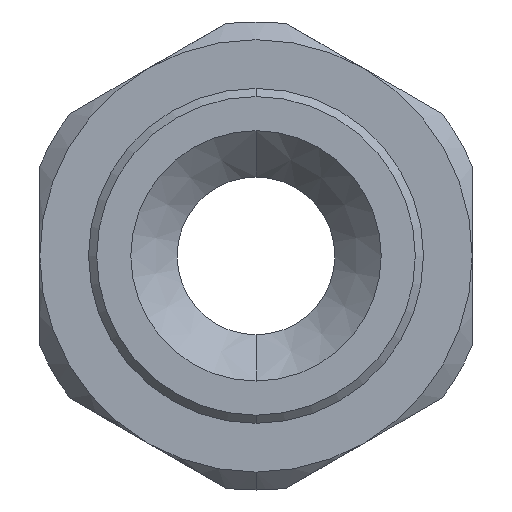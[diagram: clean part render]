
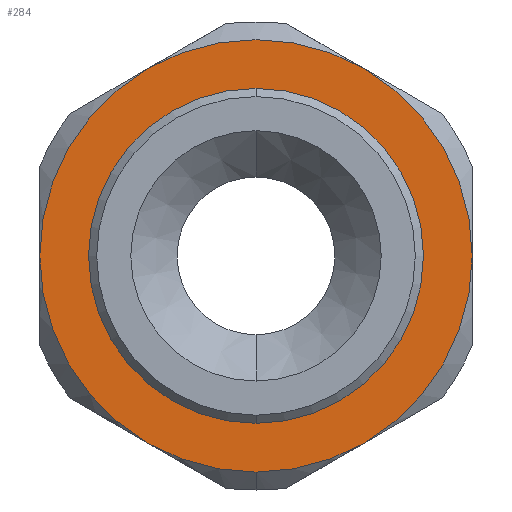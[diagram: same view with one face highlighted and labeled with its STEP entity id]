
A CAD part, front view. The second image highlights one B-rep face of the part: STEP entity #284.
In plain terms, the highlighted planar face has unit normal (0, -1, 0).
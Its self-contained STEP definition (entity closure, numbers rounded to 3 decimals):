
#33 = AXIS2_PLACEMENT_3D ( 'NONE', #1544, #1534, #1533 ) ;
#103 = CIRCLE ( 'NONE', #1100, 13.3 ) ;
#150 = CIRCLE ( 'NONE', #1116, 10.3 ) ;
#153 = CIRCLE ( 'NONE', #1102, 13.3 ) ;
#158 = EDGE_CURVE ( 'NONE', #1644, #1647, #371, .T. ) ;
#162 = EDGE_CURVE ( 'NONE', #1835, #1729, #394, .T. ) ;
#163 = EDGE_CURVE ( 'NONE', #1915, #1868, #150, .T. ) ;
#164 = EDGE_CURVE ( 'NONE', #1729, #1644, #103, .T. ) ;
#168 = EDGE_CURVE ( 'NONE', #1634, #1835, #153, .T. ) ;
#171 = EDGE_CURVE ( 'NONE', #1762, #1676, #250, .T. ) ;
#172 = EDGE_CURVE ( 'NONE', #1647, #1762, #248, .T. ) ;
#223 = CIRCLE ( 'NONE', #33, 10.3 ) ;
#248 = CIRCLE ( 'NONE', #1096, 13.3 ) ;
#250 = CIRCLE ( 'NONE', #1097, 13.3 ) ;
#284 = ADVANCED_FACE ( 'NONE', ( #1305, #1315 ), #2422, .F. ) ;
#371 = CIRCLE ( 'NONE', #1110, 13.3 ) ;
#383 = EDGE_CURVE ( 'NONE', #1676, #1634, #401, .T. ) ;
#394 = CIRCLE ( 'NONE', #1107, 13.3 ) ;
#401 = CIRCLE ( 'NONE', #1059, 13.3 ) ;
#463 = EDGE_CURVE ( 'NONE', #1868, #1915, #223, .T. ) ;
#750 = DIRECTION ( 'NONE',  ( 0., 0., -1. ) ) ;
#751 = DIRECTION ( 'NONE',  ( 0., -1., 0. ) ) ;
#752 = CARTESIAN_POINT ( 'NONE',  ( 0., 1., 0. ) ) ;
#753 = DIRECTION ( 'NONE',  ( 0., 0., -1. ) ) ;
#754 = DIRECTION ( 'NONE',  ( 0., -1., 0. ) ) ;
#758 = CARTESIAN_POINT ( 'NONE',  ( 0., 1., 0. ) ) ;
#762 = DIRECTION ( 'NONE',  ( 0., 0., -1. ) ) ;
#763 = DIRECTION ( 'NONE',  ( 0., -1., 0. ) ) ;
#767 = CARTESIAN_POINT ( 'NONE',  ( 0., 1., 0. ) ) ;
#779 = DIRECTION ( 'NONE',  ( 0., 0., -1. ) ) ;
#780 = DIRECTION ( 'NONE',  ( 0., -1., 0. ) ) ;
#781 = CARTESIAN_POINT ( 'NONE',  ( 0., 1., 0. ) ) ;
#782 = DIRECTION ( 'NONE',  ( 0., 0., -1. ) ) ;
#783 = DIRECTION ( 'NONE',  ( 0., -1., 0. ) ) ;
#784 = CARTESIAN_POINT ( 'NONE',  ( 0., 1., 0. ) ) ;
#785 = DIRECTION ( 'NONE',  ( 0., 0., -1. ) ) ;
#786 = DIRECTION ( 'NONE',  ( 0., -1., 0. ) ) ;
#793 = CARTESIAN_POINT ( 'NONE',  ( 0., 1., 0. ) ) ;
#797 = DIRECTION ( 'NONE',  ( 0., 0., -1. ) ) ;
#798 = DIRECTION ( 'NONE',  ( 0., -1., 0. ) ) ;
#799 = CARTESIAN_POINT ( 'NONE',  ( 0., 1., 0. ) ) ;
#958 = EDGE_LOOP ( 'NONE', ( #1809, #1803 ) ) ;
#959 = EDGE_LOOP ( 'NONE', ( #1860, #1922, #1853, #1917, #1898, #1801, #1857 ) ) ;
#1059 = AXIS2_PLACEMENT_3D ( 'NONE', #2381, #2377, #2376 ) ;
#1096 = AXIS2_PLACEMENT_3D ( 'NONE', #752, #751, #750 ) ;
#1097 = AXIS2_PLACEMENT_3D ( 'NONE', #758, #754, #753 ) ;
#1100 = AXIS2_PLACEMENT_3D ( 'NONE', #781, #780, #779 ) ;
#1102 = AXIS2_PLACEMENT_3D ( 'NONE', #767, #763, #762 ) ;
#1107 = AXIS2_PLACEMENT_3D ( 'NONE', #793, #786, #785 ) ;
#1110 = AXIS2_PLACEMENT_3D ( 'NONE', #799, #798, #797 ) ;
#1116 = AXIS2_PLACEMENT_3D ( 'NONE', #784, #783, #782 ) ;
#1249 = AXIS2_PLACEMENT_3D ( 'NONE', #2144, #2374, #2432 ) ;
#1305 = FACE_BOUND ( 'NONE', #958, .T. ) ;
#1315 = FACE_OUTER_BOUND ( 'NONE', #959, .T. ) ;
#1393 = CARTESIAN_POINT ( 'NONE',  ( 0., 1., 10.3 ) ) ;
#1426 = CARTESIAN_POINT ( 'NONE',  ( 0., 1., -10.3 ) ) ;
#1434 = CARTESIAN_POINT ( 'NONE',  ( 13.3, 1., 0. ) ) ;
#1454 = CARTESIAN_POINT ( 'NONE',  ( -6.65, 1., -11.518 ) ) ;
#1466 = CARTESIAN_POINT ( 'NONE',  ( 6.65, 1., 11.518 ) ) ;
#1479 = CARTESIAN_POINT ( 'NONE',  ( 0., 1., -13.3 ) ) ;
#1489 = CARTESIAN_POINT ( 'NONE',  ( -13.3, 1., 0. ) ) ;
#1490 = CARTESIAN_POINT ( 'NONE',  ( -6.65, 1., 11.518 ) ) ;
#1496 = CARTESIAN_POINT ( 'NONE',  ( 6.65, 1., -11.518 ) ) ;
#1533 = DIRECTION ( 'NONE',  ( 0., 0., -1. ) ) ;
#1534 = DIRECTION ( 'NONE',  ( 0., -1., 0. ) ) ;
#1544 = CARTESIAN_POINT ( 'NONE',  ( 0., 1., 0. ) ) ;
#1634 = VERTEX_POINT ( 'NONE', #1496 ) ;
#1644 = VERTEX_POINT ( 'NONE', #1490 ) ;
#1647 = VERTEX_POINT ( 'NONE', #1489 ) ;
#1676 = VERTEX_POINT ( 'NONE', #1479 ) ;
#1729 = VERTEX_POINT ( 'NONE', #1466 ) ;
#1762 = VERTEX_POINT ( 'NONE', #1454 ) ;
#1801 = ORIENTED_EDGE ( 'NONE', *, *, #383, .T. ) ;
#1803 = ORIENTED_EDGE ( 'NONE', *, *, #163, .F. ) ;
#1809 = ORIENTED_EDGE ( 'NONE', *, *, #463, .F. ) ;
#1835 = VERTEX_POINT ( 'NONE', #1434 ) ;
#1853 = ORIENTED_EDGE ( 'NONE', *, *, #158, .T. ) ;
#1857 = ORIENTED_EDGE ( 'NONE', *, *, #168, .T. ) ;
#1860 = ORIENTED_EDGE ( 'NONE', *, *, #162, .T. ) ;
#1868 = VERTEX_POINT ( 'NONE', #1426 ) ;
#1898 = ORIENTED_EDGE ( 'NONE', *, *, #171, .T. ) ;
#1915 = VERTEX_POINT ( 'NONE', #1393 ) ;
#1917 = ORIENTED_EDGE ( 'NONE', *, *, #172, .T. ) ;
#1922 = ORIENTED_EDGE ( 'NONE', *, *, #164, .T. ) ;
#2144 = CARTESIAN_POINT ( 'NONE',  ( -14.4, 1., 0. ) ) ;
#2374 = DIRECTION ( 'NONE',  ( 0., 1., 0. ) ) ;
#2376 = DIRECTION ( 'NONE',  ( 0., 0., -1. ) ) ;
#2377 = DIRECTION ( 'NONE',  ( 0., -1., 0. ) ) ;
#2381 = CARTESIAN_POINT ( 'NONE',  ( 0., 1., 0. ) ) ;
#2422 = PLANE ( 'NONE',  #1249 ) ;
#2432 = DIRECTION ( 'NONE',  ( 0., 0., 1. ) ) ;
